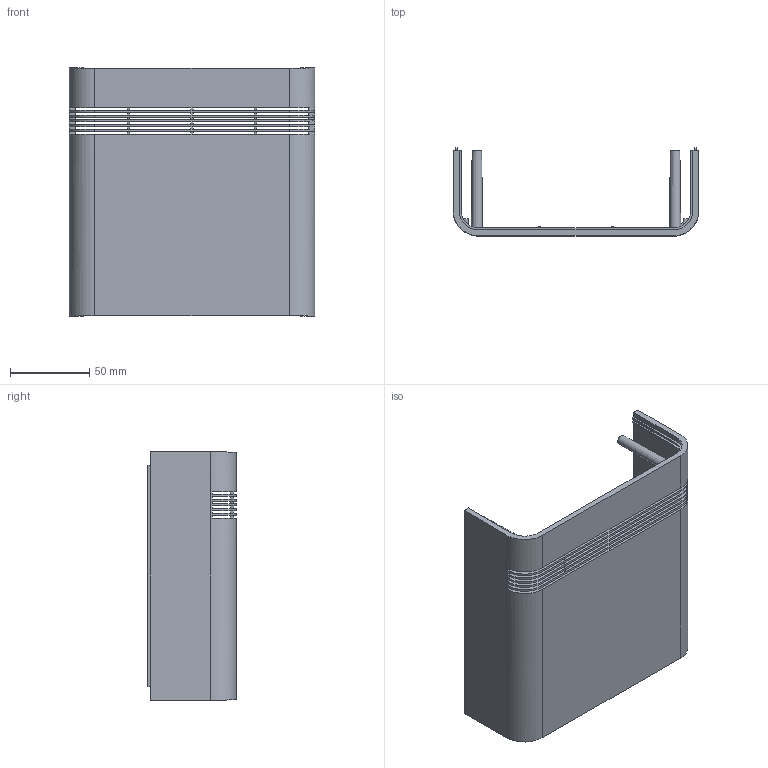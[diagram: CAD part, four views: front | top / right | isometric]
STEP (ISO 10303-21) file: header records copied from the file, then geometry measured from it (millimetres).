
FILE_DESCRIPTION (( 'STEP AP214' ), '1' );
FILE_NAME ('Tapa PP79 B.STEP', '2016-09-22T09:37:52', ( 'aaa' ), ( '' ), 'SwSTEP 2.0', 'SolidWorks 2013', '' );
FILE_SCHEMA (( 'AUTOMOTIVE_DESIGN' ));
Length unit declared in the file: millimetre
Products named in the file (1): Tapa PP79 B
Bounding box: 155 x 55.6 x 157 mm (x, y, z)
Volume: 142902.8 mm3; surface area: 92989.2 mm2
Topology: 1 solids, 1 shells, 244 faces, 768 edges, 512 vertices
Faces by surface type: plane 192, cylinder 44, cone 8
Entity records: 8782 total; most frequent: CARTESIAN_POINT 1725, ORIENTED_EDGE 1536, DIRECTION 1402, EDGE_CURVE 768, VECTOR 592, LINE 592, VERTEX_POINT 512, AXIS2_PLACEMENT_3D 405
